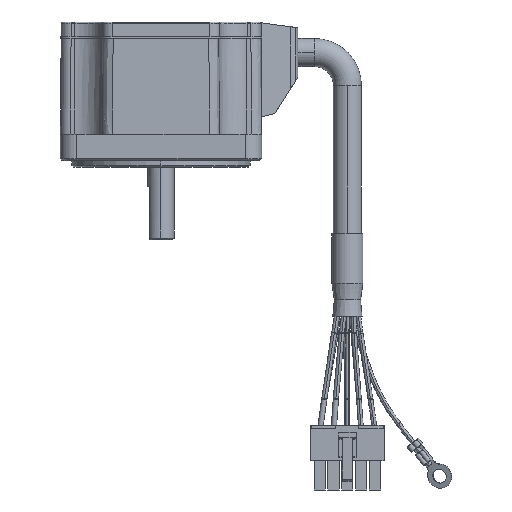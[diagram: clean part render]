
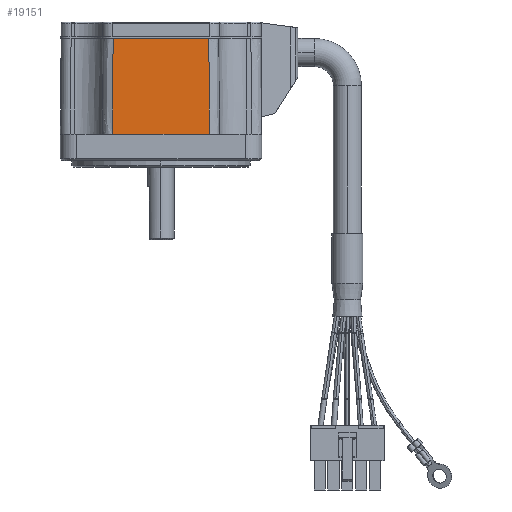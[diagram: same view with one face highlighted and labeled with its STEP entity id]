
A CAD part, left-side view. The second image highlights one B-rep face of the part: STEP entity #19151.
In plain terms, the highlighted planar face has unit normal (-1, 0, 0.009).
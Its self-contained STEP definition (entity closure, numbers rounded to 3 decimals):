
#2065 = CARTESIAN_POINT ( 'NONE',  ( -30.25, -14.511, 29. ) ) ;
#4893 = EDGE_CURVE ( 'NONE', #27415, #7619, #8508, .T. ) ;
#5507 = CARTESIAN_POINT ( 'NONE',  ( -30.417, -14.635, 9.667 ) ) ;
#5508 = PLANE ( 'NONE',  #10752 ) ;
#7619 = VERTEX_POINT ( 'NONE', #2065 ) ;
#8329 = EDGE_CURVE ( 'NONE', #21004, #12337, #15366, .T. ) ;
#8508 = LINE ( 'NONE', #13163, #26389 ) ;
#8671 = DIRECTION ( 'NONE',  ( 0., -1., 0. ) ) ;
#10752 = AXIS2_PLACEMENT_3D ( 'NONE', #11916, #20813, #27514 ) ;
#10807 = VECTOR ( 'NONE', #8671, 1000. ) ;
#11008 = EDGE_CURVE ( 'NONE', #12337, #7619, #11695, .T. ) ;
#11695 = B_SPLINE_CURVE_WITH_KNOTS ( 'NONE', 3,
 ( #16286, #5507, #27943, #25200 ),
 .UNSPECIFIED., .F., .F.,
 ( 4, 4 ),
 ( 0., 1. ),
 .UNSPECIFIED. ) ;
#11916 = CARTESIAN_POINT ( 'NONE',  ( -30.5, 14.697, 0. ) ) ;
#12047 = VECTOR ( 'NONE', #18793, 1000. ) ;
#12239 = CARTESIAN_POINT ( 'NONE',  ( -30.5, 14.697, 0. ) ) ;
#12337 = VERTEX_POINT ( 'NONE', #28064 ) ;
#13163 = CARTESIAN_POINT ( 'NONE',  ( -30.25, 14.511, 29. ) ) ;
#13544 = EDGE_LOOP ( 'NONE', ( #26853, #23300, #17545, #22322 ) ) ;
#14543 = FACE_OUTER_BOUND ( 'NONE', #13544, .T. ) ;
#15366 = LINE ( 'NONE', #28654, #10807 ) ;
#16055 = EDGE_CURVE ( 'NONE', #21004, #27415, #23609, .T. ) ;
#16286 = CARTESIAN_POINT ( 'NONE',  ( -30.5, -14.697, 0. ) ) ;
#17545 = ORIENTED_EDGE ( 'NONE', *, *, #4893, .F. ) ;
#17561 = CARTESIAN_POINT ( 'NONE',  ( -30.25, 14.511, 29. ) ) ;
#18793 = DIRECTION ( 'NONE',  ( 0.009, -0.006, 1. ) ) ;
#19151 = ADVANCED_FACE ( 'NONE', ( #14543 ), #5508, .T. ) ;
#20813 = DIRECTION ( 'NONE',  ( -1., 0., 0.009 ) ) ;
#21004 = VERTEX_POINT ( 'NONE', #12239 ) ;
#21413 = CARTESIAN_POINT ( 'NONE',  ( -30.5, 14.697, 0. ) ) ;
#22058 = DIRECTION ( 'NONE',  ( 0., -1., 0. ) ) ;
#22322 = ORIENTED_EDGE ( 'NONE', *, *, #16055, .F. ) ;
#23300 = ORIENTED_EDGE ( 'NONE', *, *, #11008, .T. ) ;
#23609 = LINE ( 'NONE', #21413, #12047 ) ;
#25200 = CARTESIAN_POINT ( 'NONE',  ( -30.25, -14.511, 29. ) ) ;
#26389 = VECTOR ( 'NONE', #22058, 1000. ) ;
#26853 = ORIENTED_EDGE ( 'NONE', *, *, #8329, .T. ) ;
#27415 = VERTEX_POINT ( 'NONE', #17561 ) ;
#27514 = DIRECTION ( 'NONE',  ( 0., 1., 0. ) ) ;
#27943 = CARTESIAN_POINT ( 'NONE',  ( -30.333, -14.573, 19.333 ) ) ;
#28064 = CARTESIAN_POINT ( 'NONE',  ( -30.5, -14.697, 0. ) ) ;
#28654 = CARTESIAN_POINT ( 'NONE',  ( -30.5, 14.697, 0. ) ) ;
